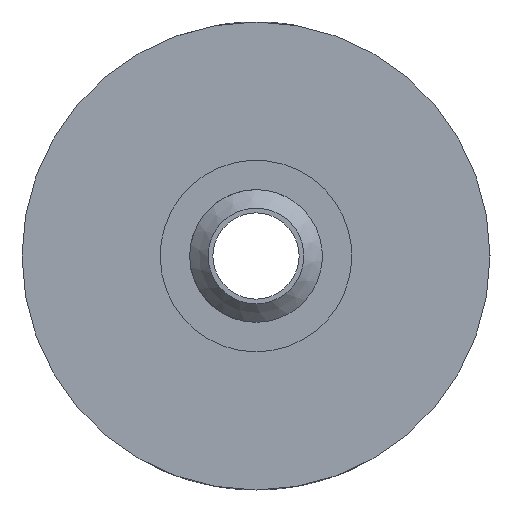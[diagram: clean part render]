
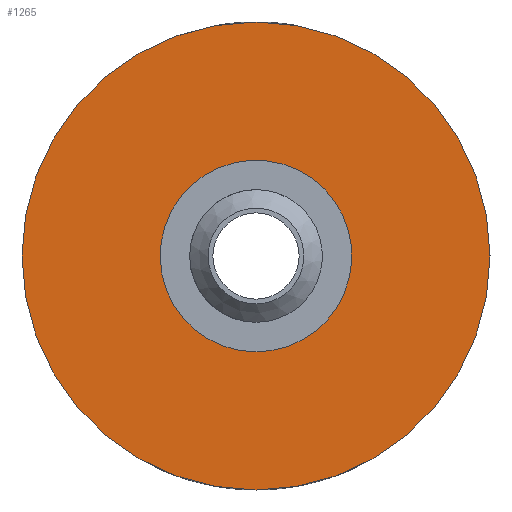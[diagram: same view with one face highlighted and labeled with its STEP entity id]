
A CAD part, left-side view. The second image highlights one B-rep face of the part: STEP entity #1265.
In plain terms, the highlighted planar face has unit normal (-1, 0, 0).
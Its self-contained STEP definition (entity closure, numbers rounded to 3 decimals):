
#49=PLANE('',#1408);
#83=FACE_BOUND('',#186,.T.);
#107=FACE_OUTER_BOUND('',#185,.T.);
#185=EDGE_LOOP('',(#1014,#1015));
#186=EDGE_LOOP('',(#1016,#1017));
#284=CIRCLE('',#1392,1.3);
#285=CIRCLE('',#1393,1.3);
#288=CIRCLE('',#1397,3.175);
#295=CIRCLE('',#1404,3.175);
#592=VERTEX_POINT('',#2252);
#593=VERTEX_POINT('',#2253);
#596=VERTEX_POINT('',#2262);
#597=VERTEX_POINT('',#2263);
#738=EDGE_CURVE('',#592,#593,#284,.T.);
#739=EDGE_CURVE('',#593,#592,#285,.T.);
#743=EDGE_CURVE('',#596,#597,#288,.T.);
#756=EDGE_CURVE('',#597,#596,#295,.T.);
#1014=ORIENTED_EDGE('',*,*,#743,.F.);
#1015=ORIENTED_EDGE('',*,*,#756,.F.);
#1016=ORIENTED_EDGE('',*,*,#738,.T.);
#1017=ORIENTED_EDGE('',*,*,#739,.T.);
#1265=ADVANCED_FACE('',(#107,#83),#49,.F.);
#1392=AXIS2_PLACEMENT_3D('',#2254,#1555,#1556);
#1393=AXIS2_PLACEMENT_3D('',#2255,#1557,#1558);
#1397=AXIS2_PLACEMENT_3D('',#2264,#1566,#1567);
#1404=AXIS2_PLACEMENT_3D('',#2311,#1584,#1585);
#1408=AXIS2_PLACEMENT_3D('',#2720,#1598,#1599);
#1555=DIRECTION('center_axis',(1.,0.,0.));
#1556=DIRECTION('ref_axis',(0.,0.,-1.));
#1557=DIRECTION('center_axis',(1.,0.,0.));
#1558=DIRECTION('ref_axis',(0.,0.,-1.));
#1566=DIRECTION('center_axis',(1.,0.,0.));
#1567=DIRECTION('ref_axis',(0.,0.,-1.));
#1584=DIRECTION('center_axis',(1.,0.,0.));
#1585=DIRECTION('ref_axis',(0.,0.,-1.));
#1598=DIRECTION('center_axis',(1.,0.,0.));
#1599=DIRECTION('ref_axis',(0.,0.,-1.));
#2252=CARTESIAN_POINT('',(-4.75,0.,-1.3));
#2253=CARTESIAN_POINT('',(-4.75,-0.764,1.052));
#2254=CARTESIAN_POINT('Origin',(-4.75,0.,0.));
#2255=CARTESIAN_POINT('Origin',(-4.75,0.,0.));
#2262=CARTESIAN_POINT('',(-4.75,0.,3.175));
#2263=CARTESIAN_POINT('',(-4.75,0.,-3.175));
#2264=CARTESIAN_POINT('Origin',(-4.75,0.,0.));
#2311=CARTESIAN_POINT('Origin',(-4.75,0.,0.));
#2720=CARTESIAN_POINT('Origin',(-4.75,0.,0.));
